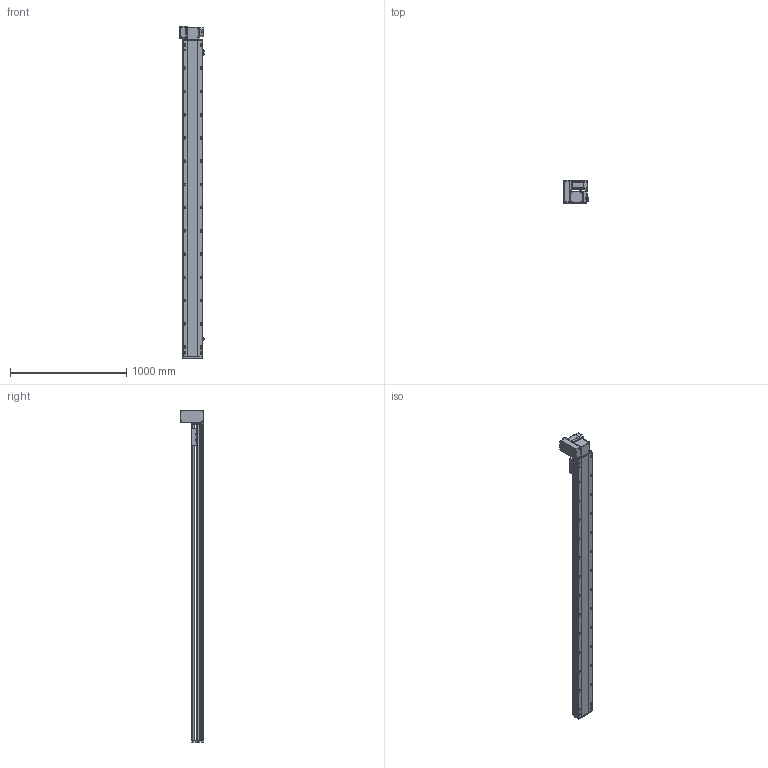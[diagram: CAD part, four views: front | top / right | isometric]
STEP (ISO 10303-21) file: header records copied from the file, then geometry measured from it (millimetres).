
FILE_DESCRIPTION (( 'STEP AP214' ), '1' );
FILE_NAME ('RTB17S-XX-2450-LW-M75-C4.STEP', '2025-12-12T01:17:07', ( '' ), ( '' ), 'SwSTEP 2.0', 'SolidWorks 2018', '' );
FILE_SCHEMA (( 'AUTOMOTIVE_DESIGN' ));
Length unit declared in the file: millimetre
Products named in the file (15): RTH13-BL-012覜茼え俋离^RTB17S-賑釱_RTB17S-XX-XX-LW-M75-C4; RTB17S-L-001-耜醱啣^RTB17S-XX-XX-LW-M75-C4; RTB17-R-011菁釱^RTB17S-XX-XX-LW-M75-C4; 750W萇儂^RTB17S-XX-XX-LW-M75-C4; RTB22S-GY-005P^RTB17S-LW-々湍釱蚾饜-750W_RTB17S-XX-XX-LW-M75-C4; RTB17S-XX-2450-LW-M75-C4; EE672^RTB17S-XX-XX-LW-M75-C4; RTB17S-L-004-賑釱^RTB17S-賑釱_RTB17S-XX-XX-LW-M75-C4; RTB22S-GY-017P^RTB17S-LW-々湍釱蚾饜-750W_RTB17S-XX-XX-LW-M75-C4; RTB22S-GY-018P^RTB17S-LW-々湍釱蚾饜-750W_RTB17S-XX-XX-LW-M75-C4; RTB17S-L-007奻裔^RTB17S-XX-XX-LW-M75-C4; RTB22S-GY-008-M75--萇儂啣^RTB17S-LW-々湍釱蚾饜-750W_RTB17S-XX-XX-LW-M75-C4; RTB17S-L-014-T20-P75--々湍釱^RTB17S-LW-々湍釱蚾饜-750W_RTB17S-XX-XX-LW-M75-C4; RTB17S-賑釱^RTB17S-XX-XX-LW-M75-C4; RTB17S-LW-々湍釱蚾饜-750W^RTB17S-XX-XX-LW-M75-C4
Assembly tree (17 placements, depth 3):
  RTB17S-XX-2450-LW-M75-C4
    RTB17-R-011菁釱^RTB17S-XX-XX-LW-M75-C4
    EE672^RTB17S-XX-XX-LW-M75-C4  x3
    RTB17S-L-001-耜醱啣^RTB17S-XX-XX-LW-M75-C4
    RTB17S-賑釱^RTB17S-XX-XX-LW-M75-C4
      RTB17S-L-004-賑釱^RTB17S-賑釱_RTB17S-XX-XX-LW-M75-C4
      RTH13-BL-012覜茼え俋离^RTB17S-賑釱_RTB17S-XX-XX-LW-M75-C4
    RTB17S-L-007奻裔^RTB17S-XX-XX-LW-M75-C4
    750W萇儂^RTB17S-XX-XX-LW-M75-C4
    RTB17S-LW-々湍釱蚾饜-750W^RTB17S-XX-XX-LW-M75-C4
      RTB17S-L-014-T20-P75--々湍釱^RTB17S-LW-々湍釱蚾饜-750W_RTB17S-XX-XX-LW-M75-C4
      RTB22S-GY-005P^RTB17S-LW-々湍釱蚾饜-750W_RTB17S-XX-XX-LW-M75-C4
      RTB22S-GY-017P^RTB17S-LW-々湍釱蚾饜-750W_RTB17S-XX-XX-LW-M75-C4  x2
      RTB22S-GY-008-M75--萇儂啣^RTB17S-LW-々湍釱蚾饜-750W_RTB17S-XX-XX-LW-M75-C4
      RTB22S-GY-018P^RTB17S-LW-々湍釱蚾饜-750W_RTB17S-XX-XX-LW-M75-C4
Bounding box: 210.4 x 201.5 x 2857.5 mm (x, y, z)
Volume: 21260077.2 mm3; surface area: 3853795.1 mm2
Topology: 17 solids, 17 shells, 2217 faces, 6214 edges, 4022 vertices
Faces by surface type: plane 986, cylinder 815, bspline 294, cone 110, sphere 8, torus 4
Entity records: 64246 total; most frequent: CARTESIAN_POINT 19078, ORIENTED_EDGE 9272, DIRECTION 8582, EDGE_CURVE 4636, AXIS2_PLACEMENT_3D 3042, VERTEX_POINT 3026, LINE 2498, VECTOR 2498
